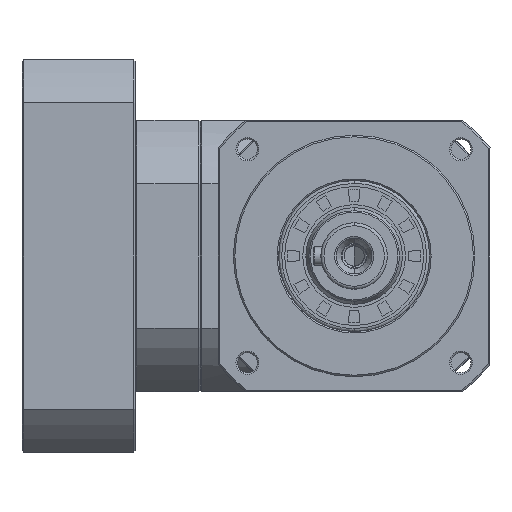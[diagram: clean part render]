
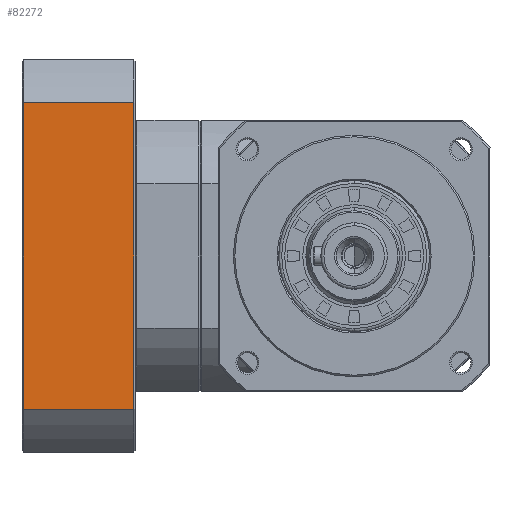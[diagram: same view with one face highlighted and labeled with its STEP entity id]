
A CAD part, left-side view. The second image highlights one B-rep face of the part: STEP entity #82272.
In plain terms, the highlighted planar face has unit normal (-1, 0, 0).
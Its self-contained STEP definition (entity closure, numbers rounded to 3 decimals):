
#2655 = LINE ( 'NONE', #35969, #15285 ) ;
#3155 = VECTOR ( 'NONE', #73248, 1000. ) ;
#8752 = LINE ( 'NONE', #12252, #36332 ) ;
#9517 = PLANE ( 'NONE',  #15949 ) ;
#11938 = DIRECTION ( 'NONE',  ( 0., 0., -1. ) ) ;
#12252 = CARTESIAN_POINT ( 'NONE',  ( 94., 109.5, 0. ) ) ;
#15285 = VECTOR ( 'NONE', #58278, 1000. ) ;
#15949 = AXIS2_PLACEMENT_3D ( 'NONE', #23356, #30458, #37847 ) ;
#18064 = LINE ( 'NONE', #43640, #3155 ) ;
#23356 = CARTESIAN_POINT ( 'NONE',  ( 94., 73., -50.806 ) ) ;
#24402 = EDGE_CURVE ( 'NONE', #40669, #27696, #8752, .T. ) ;
#27696 = VERTEX_POINT ( 'NONE', #55850 ) ;
#30458 = DIRECTION ( 'NONE',  ( -1., 0., 0. ) ) ;
#31564 = VECTOR ( 'NONE', #11938, 1000. ) ;
#31643 = VERTEX_POINT ( 'NONE', #75521 ) ;
#35969 = CARTESIAN_POINT ( 'NONE',  ( 94., 91.25, 50.806 ) ) ;
#36332 = VECTOR ( 'NONE', #92708, 1000. ) ;
#37481 = VERTEX_POINT ( 'NONE', #83487 ) ;
#37847 = DIRECTION ( 'NONE',  ( 0., 0., 1. ) ) ;
#40669 = VERTEX_POINT ( 'NONE', #68789 ) ;
#40999 = EDGE_CURVE ( 'NONE', #40669, #37481, #2655, .T. ) ;
#43640 = CARTESIAN_POINT ( 'NONE',  ( 94., 91.25, -50.806 ) ) ;
#55721 = ORIENTED_EDGE ( 'NONE', *, *, #76418, .F. ) ;
#55850 = CARTESIAN_POINT ( 'NONE',  ( 94., 109.5, -50.806 ) ) ;
#58278 = DIRECTION ( 'NONE',  ( 0., -1., 0. ) ) ;
#60423 = EDGE_LOOP ( 'NONE', ( #65248, #55721, #65779, #85161 ) ) ;
#62363 = LINE ( 'NONE', #78384, #31564 ) ;
#62924 = FACE_OUTER_BOUND ( 'NONE', #60423, .T. ) ;
#65248 = ORIENTED_EDGE ( 'NONE', *, *, #69883, .F. ) ;
#65779 = ORIENTED_EDGE ( 'NONE', *, *, #40999, .F. ) ;
#68789 = CARTESIAN_POINT ( 'NONE',  ( 94., 109.5, 50.806 ) ) ;
#69883 = EDGE_CURVE ( 'NONE', #31643, #27696, #18064, .T. ) ;
#73248 = DIRECTION ( 'NONE',  ( 0., 1., 0. ) ) ;
#75521 = CARTESIAN_POINT ( 'NONE',  ( 94., 73., -50.806 ) ) ;
#76418 = EDGE_CURVE ( 'NONE', #37481, #31643, #62363, .T. ) ;
#78384 = CARTESIAN_POINT ( 'NONE',  ( 94., 73., 0. ) ) ;
#82272 = ADVANCED_FACE ( 'NONE', ( #62924 ), #9517, .T. ) ;
#83487 = CARTESIAN_POINT ( 'NONE',  ( 94., 73., 50.806 ) ) ;
#85161 = ORIENTED_EDGE ( 'NONE', *, *, #24402, .T. ) ;
#92708 = DIRECTION ( 'NONE',  ( 0., 0., -1. ) ) ;
